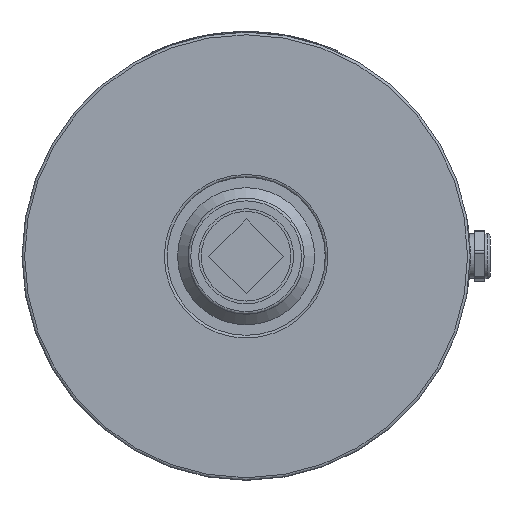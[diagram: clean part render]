
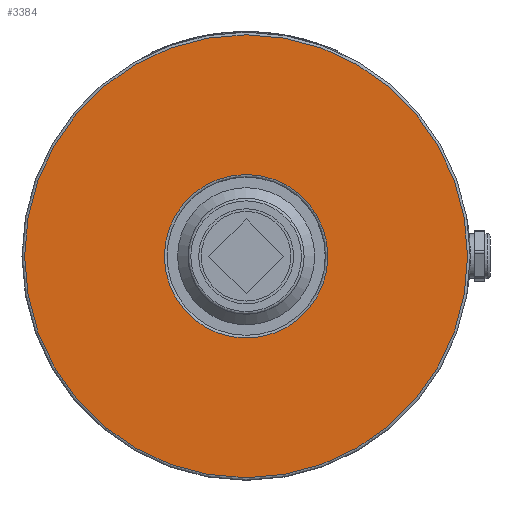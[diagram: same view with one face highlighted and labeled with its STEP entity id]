
A CAD part, front view. The second image highlights one B-rep face of the part: STEP entity #3384.
In plain terms, the highlighted planar face has unit normal (0, -1, 0).
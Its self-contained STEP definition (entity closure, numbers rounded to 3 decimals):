
#685=FACE_BOUND('',#1011,.T.);
#711=PLANE('',#3603);
#818=FACE_OUTER_BOUND('',#1010,.T.);
#1010=EDGE_LOOP('',(#2191));
#1011=EDGE_LOOP('',(#2192));
#1229=CIRCLE('',#3601,42.);
#1231=CIRCLE('',#3604,15.5);
#1404=VERTEX_POINT('',#4971);
#1405=VERTEX_POINT('',#4976);
#1714=EDGE_CURVE('',#1404,#1404,#1229,.T.);
#1716=EDGE_CURVE('',#1405,#1405,#1231,.T.);
#2191=ORIENTED_EDGE('',*,*,#1714,.F.);
#2192=ORIENTED_EDGE('',*,*,#1716,.F.);
#3384=ADVANCED_FACE('',(#818,#685),#711,.F.);
#3601=AXIS2_PLACEMENT_3D('',#4973,#3987,#3988);
#3603=AXIS2_PLACEMENT_3D('',#4975,#3991,#3992);
#3604=AXIS2_PLACEMENT_3D('',#4977,#3993,#3994);
#3987=DIRECTION('center_axis',(0.,1.,0.));
#3988=DIRECTION('ref_axis',(-1.,0.,0.));
#3991=DIRECTION('center_axis',(0.,1.,0.));
#3992=DIRECTION('ref_axis',(0.,0.,1.));
#3993=DIRECTION('center_axis',(0.,-1.,0.));
#3994=DIRECTION('ref_axis',(1.,0.,0.));
#4971=CARTESIAN_POINT('',(0.,-77.,-42.));
#4973=CARTESIAN_POINT('Origin',(0.,-77.,0.));
#4975=CARTESIAN_POINT('Origin',(0.,-77.,0.));
#4976=CARTESIAN_POINT('',(0.,-77.,15.5));
#4977=CARTESIAN_POINT('Origin',(0.,-77.,0.));
